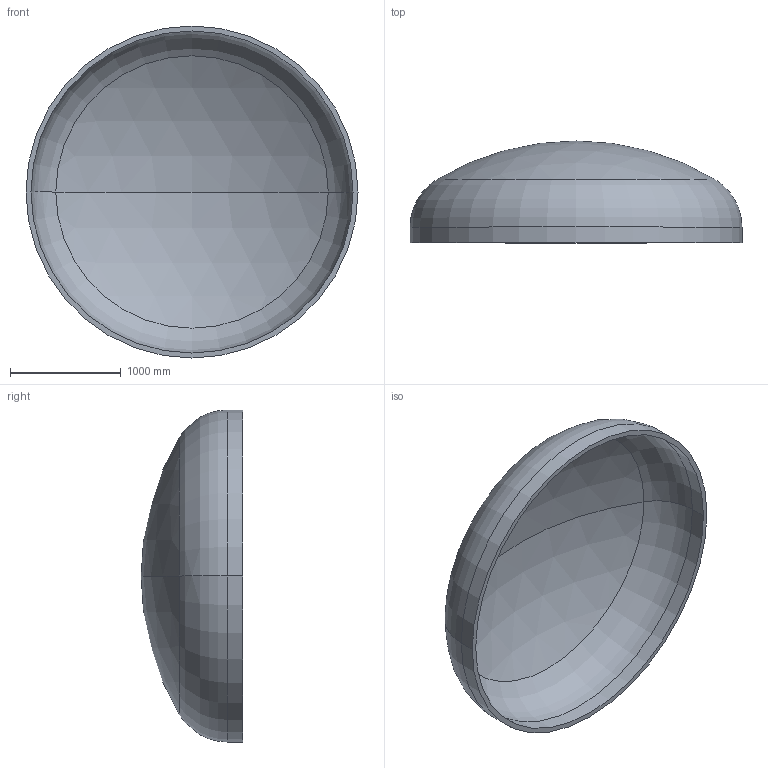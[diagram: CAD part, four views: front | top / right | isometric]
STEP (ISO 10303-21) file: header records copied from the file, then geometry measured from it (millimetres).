
FILE_DESCRIPTION (( 'STEP AP203' ), '1' );
FILE_NAME ('DIN 28013 Korbbogenform_-_Boden DIN 28013 - 3000 x 140 - I - s=45.step', '2016-07-01T17:48:59', ( '' ), ( '' ), 'SwSTEP 2.0', 'SolidWorks 2013', '' );
FILE_SCHEMA (( 'CONFIG_CONTROL_DESIGN' ));
Length unit declared in the file: millimetre
Products named in the file (1): DIN 28013 Korbbogenform_-_Boden DIN 28013 - 3000 x 140 - I - s=45
Bounding box: 3000 x 919.59 x 3000 mm (x, y, z)
Volume: 490020534.8 mm3; surface area: 22200677.4 mm2
Topology: 1 solids, 1 shells, 13 faces, 24 edges, 14 vertices
Faces by surface type: torus 4, cylinder 4, sphere 4, plane 1
Entity records: 407 total; most frequent: DIRECTION 72, CARTESIAN_POINT 52, ORIENTED_EDGE 48, AXIS2_PLACEMENT_3D 34, EDGE_CURVE 24, CIRCLE 20, EDGE_LOOP 14, VERTEX_POINT 14
